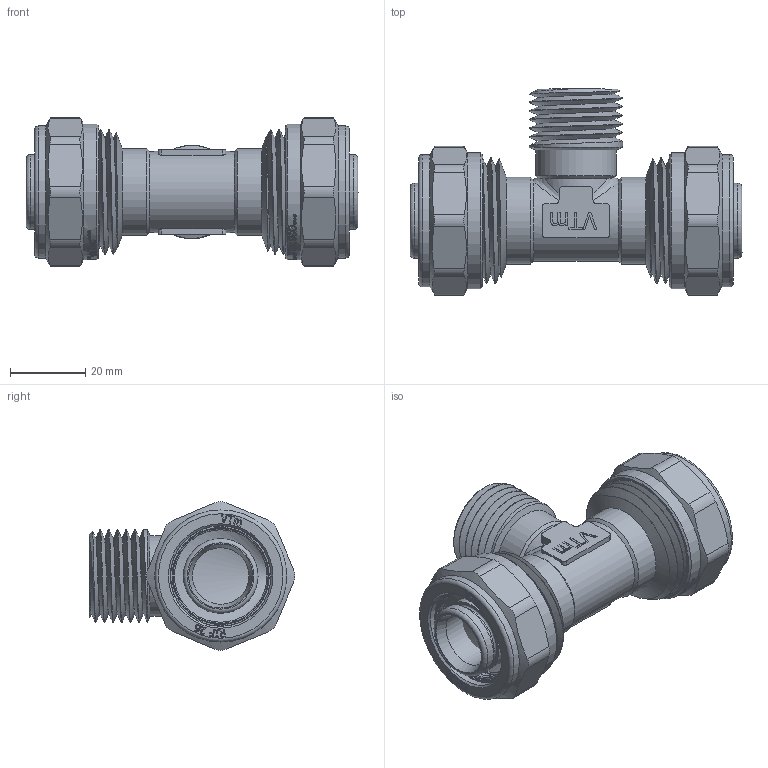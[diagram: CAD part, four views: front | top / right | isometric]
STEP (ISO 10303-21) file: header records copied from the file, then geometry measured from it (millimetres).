
FILE_DESCRIPTION(/* description */ (''),/* implementation_level */ '2;1');
FILE_NAME(/* name */ 'F:\Артём\00000\Работа удаленка\Обжимные фитинги\VTm.333.N.260526.stp',/* time_stamp */ '2020-07-30T10:08:14+03:00',/* author */ ('almis'),/* organization */ (''),/* preprocessor_version */ 'ST-DEVELOPER v18',/* originating_system */ 'Autodesk Inventor 2020',/* authorisation */ '');
FILE_SCHEMA (('AUTOMOTIVE_DESIGN { 1 0 10303 214 3 1 1 }'));
Length unit declared in the file: millimetre
Products named in the file (1): VTm.332.N.260626
Bounding box: 88 x 54.59 x 39.39 mm (x, y, z)
Volume: 41182.4 mm3; surface area: 34002.8 mm2
Topology: 3 solids, 3 shells, 1441 faces, 4103 edges, 2775 vertices
Faces by surface type: bspline 770, plane 394, cylinder 192, torus 48, cone 37
Full cylindrical faces by diameter (mm): 15 x1, 15.312 x1, 17.4 x4, 18.812 x1, 19.8 x10, 20.112 x8, 21.312 x1, 23 x2, 24.516 x8, 24.712 x5, 25.435 x10, 26.2 x2, 26.7 x2, 28.5 x2, 28.7 x8, 30.5 x4, 33.3 x2, 35 x2, 36 x2
Entity records: 64690 total; most frequent: CARTESIAN_POINT 32186, ORIENTED_EDGE 8208, DIRECTION 4282, EDGE_CURVE 4104, VERTEX_POINT 2776, LINE 1736, VECTOR 1736, B_SPLINE_CURVE_WITH_KNOTS 1735
